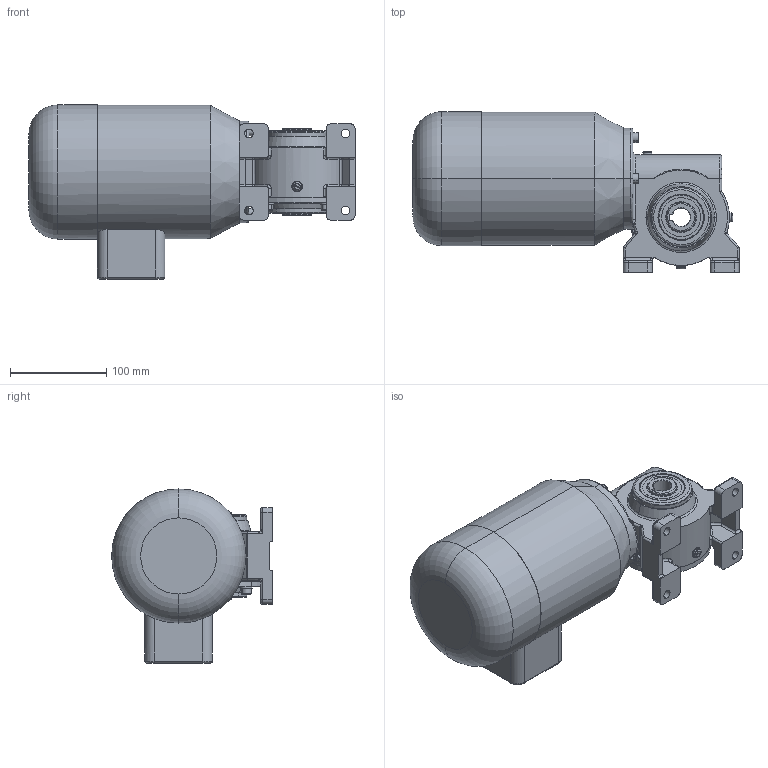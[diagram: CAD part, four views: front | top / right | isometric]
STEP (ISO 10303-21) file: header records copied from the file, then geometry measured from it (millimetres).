
FILE_DESCRIPTION (( 'STEP AP214' ), '1' );
FILE_NAME ('SN9SHH_250W_Drehstrom-Motor_A.STEP', '2021-05-10T10:34:04', ( '' ), ( '' ), 'SwSTEP 2.0', 'SolidWorks 2019', '' );
FILE_SCHEMA (( 'AUTOMOTIVE_DESIGN' ));
Length unit declared in the file: millimetre
Products named in the file (1): SN9SHH_250W_Drehstrom-Motor_A
Bounding box: 338 x 166.5 x 180.5 mm (x, y, z)
Surface area: 212794.9 mm2 (no closed solid volume)
Topology: 0 solids, 28 shells, 446 faces, 1211 edges, 755 vertices
Faces by surface type: cylinder 155, plane 152, torus 69, cone 47, bspline 20, sphere 3
Entity records: 20608 total; most frequent: CARTESIAN_POINT 4580, DIRECTION 2485, ORIENTED_EDGE 2116, EDGE_CURVE 1183, AXIS2_PLACEMENT_3D 994, VERTEX_POINT 752, CIRCLE 567, EDGE_LOOP 506
